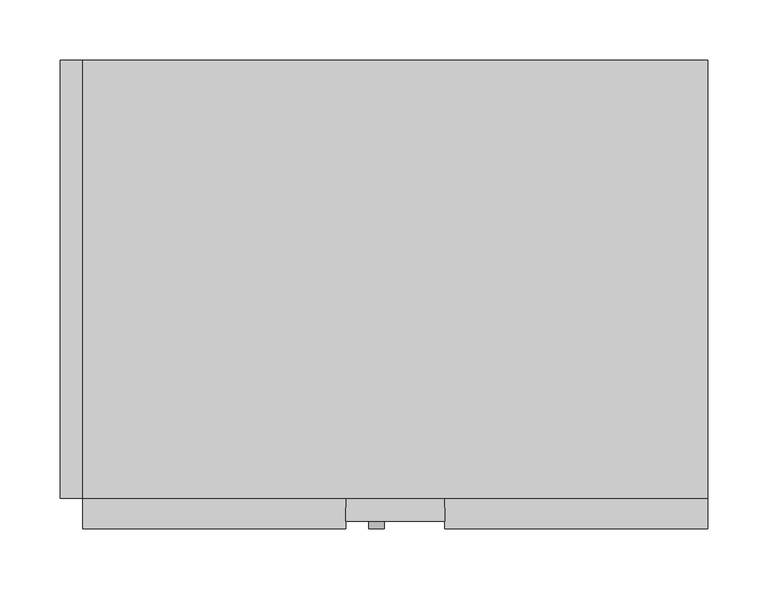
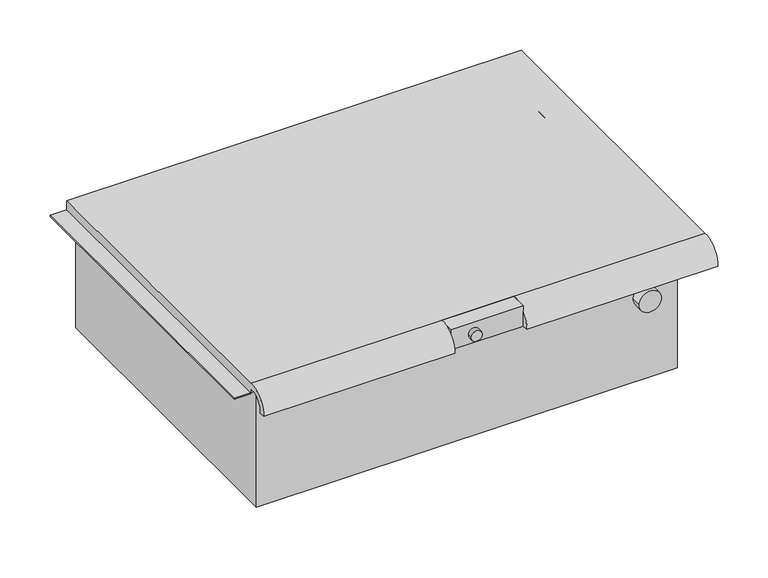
"""IFC4 building model written with IfcOpenShell, lengths in millimetres: furniture geometry."""

from ifc_helpers import new_model, si_unit, point, frame, frame_2d, origin, place, context, project, spatial, polyline, circle_curve, trimmed, segment, composite_curve, outline, extrude, faceted_brep, source, transform, mapped, element, save
from ifc_brep_helpers import plane_surface, cylinder_surface, revolved_surface, advanced_brep


def furniture_1926b776(model_context):
    return source(origin(), model_context, "Body", "SolidModel", [
        advanced_brep(
        [(289.147512, -169.8625, 371.483925), (289.147512, 195.2625, 371.483925), (289.147512, 195.2625, 382.596425), (289.147512, -169.8625, 382.596425), (289.147512, -195.297482, 357.9849518), (289.147512, -188.9125, 357.9849518), (289.147512, -169.8625, 376.246425), (-231.5525001, -169.8625, 371.483925), (-231.5525001, -169.8625, 376.246425), (-231.5525001, -188.9125, 357.9849518), (-231.5525001, -195.297482, 357.9849518), (-231.5525001, -169.8625, 382.596425), (-231.5525001, 195.2625, 382.596425), (-231.5525001, 195.2625, 371.483925), (70.072506, -169.8625, 376.246425), (70.072506, -169.8625, 382.596425), (-12.477494, -169.8625, 382.596425), (-12.477494, -169.8625, 376.246425), (70.072506, -195.297482, 357.9849518), (70.072506, -188.9125, 357.9849518), (-12.477494, -188.9125, 357.9849518), (-12.477494, -195.297482, 357.9849518)],
        [
            (0, 1),
            (1, 2),
            (2, 3),
            (3, 4, circle_curve(frame((289.147512, -172.4601678, 359.8322522), z_axis=(1.0, 0.0, 0.0), x_axis=(0.0, 1.0, 0.0)), 22.9119061)),
            (4, 5),
            (5, 6, circle_curve(frame((289.147512, -172.3404634, 359.7643622), z_axis=(-1.0, 0.0, 0.0), x_axis=(0.0, 1.0, 0.0)), 16.6672942)),
            (6, 0),
            (7, 8),
            (8, 9, circle_curve(frame((-231.5525001, -172.3404634, 359.7643622), z_axis=(1.0, 0.0, 0.0), x_axis=(0.0, 1.0, 0.0)), 16.6672942)),
            (9, 10),
            (10, 11, circle_curve(frame((-231.5525001, -172.4601678, 359.8322522), z_axis=(-1.0, 0.0, 0.0), x_axis=(0.0, 1.0, 0.0)), 22.9119061)),
            (11, 12),
            (12, 13),
            (13, 7),
            (6, 14),
            (14, 15),
            (15, 16),
            (16, 17),
            (17, 8),
            (7, 0),
            (13, 1),
            (12, 2),
            (11, 16),
            (15, 3),
            (4, 18),
            (18, 19),
            (19, 5),
            (9, 20),
            (20, 21),
            (21, 10),
            (19, 14, circle_curve(frame((70.072506, -172.3404634, 359.7643622), z_axis=(-1.0, 0.0, 0.0), x_axis=(0.0, 1.0, 0.0)), 16.6672942)),
            (17, 20, circle_curve(frame((-12.477494, -172.3404634, 359.7643622), z_axis=(1.0, 0.0, 0.0), x_axis=(0.0, 1.0, 0.0)), 16.6672942)),
            (15, 18, circle_curve(frame((70.072506, -172.4601678, 359.8322522), z_axis=(1.0, 0.0, 0.0), x_axis=(0.0, 1.0, 0.0)), 22.9119061)),
            (21, 16, circle_curve(frame((-12.477494, -172.4601678, 359.8322522), z_axis=(-1.0, 0.0, 0.0), x_axis=(0.0, 1.0, 0.0)), 22.9119061)),
        ],
        [
            plane_surface(frame((289.147512, -169.8625, 371.483925), z_axis=(1.0, 0.0, 0.0), x_axis=(0.0, 1.0, 0.0))),
            plane_surface(frame((-231.5525001, -169.8625, 371.483925), z_axis=(-1.0, 0.0, 0.0), x_axis=(0.0, -1.0, 0.0))),
            plane_surface(frame((289.147512, -169.8625, 376.246425), z_axis=(0.0, -1.0, 0.0), x_axis=(-1.0, 0.0, 0.0))),
            plane_surface(frame((289.147512, -169.8625, 371.483925), z_axis=(0.0, 0.0, -1.0), x_axis=(-1.0, 0.0, 0.0))),
            plane_surface(frame((289.147512, 195.2625, 371.483925), z_axis=(0.0, 1.0, 0.0), x_axis=(-1.0, 0.0, 0.0))),
            plane_surface(frame((289.147512, 195.2625, 382.596425), z_axis=(0.0, 0.0, 1.0), x_axis=(-1.0, 0.0, 0.0))),
            plane_surface(frame((289.147512, -195.297482, 357.9849518), z_axis=(0.0, 0.0, -1.0), x_axis=(-1.0, 0.0, 0.0))),
            revolved_surface(polyline([(70.072506, -155.67316920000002, 359.7643622), (289.147512, -155.67316920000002, 359.7643622)]), (-231.5525001, -172.3404634, 359.7643622), (-1.0, 0.0, 0.0)),
            revolved_surface(polyline([(-231.5525001, -155.67316920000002, 359.7643622), (-12.477494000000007, -155.67316920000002, 359.7643622)]), (-231.5525001, -172.3404634, 359.7643622), (-1.0, 0.0, 0.0)),
            cylinder_surface(frame((-231.5525001, -172.4601678, 359.8322522), z_axis=(1.0, 0.0, 0.0), x_axis=(0.0, 1.0, 0.0)), 22.9119061),
            plane_surface(frame((70.072506, -195.297482, 357.9849518), z_axis=(-1.0, 0.0, 0.0), x_axis=(0.0, 1.0, 0.0))),
            plane_surface(frame((-12.477494, -195.297482, 357.9849518), z_axis=(1.0, 0.0, 0.0), x_axis=(0.0, -1.0, 0.0))),
        ],
        [
            (0, [[1, 2, 3, 4, 5, 6, 7]]),
            (1, [[8, 9, 10, 11, 12, 13, 14]]),
            (2, [[-7, 15, 16, 17, 18, 19, -8, 20]]),
            (3, [[-1, -20, -14, 21]]),
            (4, [[-2, -21, -13, 22]]),
            (5, [[-3, -22, -12, 23, -17, 24]]),
            (6, [[-5, 25, 26, 27]]),
            (6, [[-10, 28, 29, 30]]),
            (7, [[-6, -27, 31, -15]]),
            (8, [[-9, -19, 32, -28]]),
            (9, [[-4, -24, 33, -25]]),
            (9, [[-11, -30, 34, -23]]),
            (10, [[-16, -31, -26, -33]]),
            (11, [[-18, -34, -29, -32]]),
        ],
    ),
        extrude(outline(polyline([(70.072506, -188.9125), (-12.477494, -188.9125), (-12.477494, -169.8625), (70.072506, -169.8625), (70.072506, -188.9125)])), frame((0.0, 0.0, 357.9849518), z_axis=(0.0, 0.0, 1.0), x_axis=(1.0, 0.0, 0.0)), (0.0, 0.0, 1.0), 24.6114732),
        extrude(outline(composite_curve([segment(trimmed(circle_curve(frame_2d((369.8964246, 12.922506)), 6.35), [point((369.8964246, 19.272506))], [point((369.8964246, 6.572506))], False, "CARTESIAN"), True, "CONTINUOUS"), segment(trimmed(circle_curve(frame_2d((369.8964246, 12.922506)), 6.35), [point((369.8964246, 6.572506))], [point((369.8964246, 19.272506))], False, "CARTESIAN"), True, "CONTINUOUS")], self_intersect=False)), frame((0.0, -195.2625, 0.0), z_axis=(0.0, 1.0, 0.0), x_axis=(0.0, 0.0, 1.0)), (0.0, 0.0, 1.0), 25.4),
        faceted_brep([(-225.2025001, -169.8625, 230.196425), (257.3974878, -169.8625, 230.196425), (257.3974878, -169.8625, 382.596425), (-225.2025001, -169.8625, 382.596425), (-225.2025001, 188.9125, 230.196425), (-225.2025001, 188.9125, 382.596425), (257.3974878, 188.9125, 382.596425), (257.3974878, 188.9125, 230.196425), (-218.8095642, 181.9275, 382.596425), (251.0474878, 181.9275, 382.596425), (251.0474878, -163.5125, 382.596425), (-218.8095642, -163.5125, 382.596425), (251.0474878, 181.9275, 233.371425), (-218.8095642, 181.9275, 233.371425), (-218.8095642, -163.5125, 233.371425), (251.0474878, -163.5125, 233.371425)], [[[0, 1, 2, 3]], [[4, 5, 6, 7]], [[1, 0, 4, 7]], [[2, 1, 7, 6]], [[3, 2, 6, 5], [8, 9, 10, 11]], [[0, 3, 5, 4]], [[12, 13, 14, 15]], [[13, 12, 9, 8]], [[14, 13, 8, 11]], [[15, 14, 11, 10]], [[12, 15, 10, 9]]]),
        faceted_brep([(-250.6025001, 195.2625, 369.8964246), (-250.6025001, 195.2625, 371.4839246), (-231.5525001, 195.2625, 371.4839246), (-231.5525001, 195.2625, 369.8964246), (-250.6025001, -169.8625, 369.8964246), (-231.5525001, -169.8625, 369.8964246), (-231.5525001, -169.8625, 371.4839246), (-250.6025001, -169.8625, 371.4839246)], [[[0, 1, 2, 3]], [[4, 5, 6, 7]], [[1, 0, 4, 7]], [[2, 1, 7, 6]], [[3, 2, 6, 5]], [[0, 3, 5, 4]]]),
        faceted_brep([(276.4474999, 195.2625, 369.8964246), (263.7474999, 195.2625, 369.8964246), (263.7474999, 195.2625, 371.4839246), (276.4474999, 195.2625, 371.4839246), (276.4474999, -169.8625, 369.8964246), (276.4474999, -169.8625, 371.4839246), (263.7474999, -169.8625, 371.4839246), (263.7474999, -169.8625, 369.8964246)], [[[0, 1, 2, 3]], [[4, 5, 6, 7]], [[1, 0, 4, 7]], [[2, 1, 7, 6]], [[3, 2, 6, 5]], [[0, 3, 5, 4]]]),
        extrude(outline(composite_curve([segment(trimmed(circle_curve(frame_2d((331.796425, 219.2974999)), 12.7), [point((331.796425, 206.5974999))], [point((331.796425, 231.9974999))], False, "CARTESIAN"), True, "CONTINUOUS"), segment(trimmed(circle_curve(frame_2d((331.796425, 219.2974999)), 12.7), [point((331.796425, 231.9974999))], [point((331.796425, 206.5974999))], False, "CARTESIAN"), True, "CONTINUOUS")], self_intersect=False)), frame((0.0, -182.5625, 0.0), z_axis=(0.0, 1.0, 0.0), x_axis=(0.0, 0.0, 1.0)), (0.0, 0.0, 1.0), 12.7),
    ])


if __name__ == "__main__":
    model = new_model("IFC4")
    model_context = context("Model", 3, world=origin())
    ifc_project = project(units=[si_unit("LENGTHUNIT", "METRE", prefix="MILLI")], contexts=[model_context])
    site = spatial("IfcSite", under=ifc_project)
    building = spatial("IfcBuilding", under=site)
    placement = place(None, origin())
    furniture_shape = furniture_1926b776(model_context)
    element("IfcFurniture", 1, ObjectType="HermanMiller_Carts_CT501_Drawer : 6\"H X 15\"D X 20\"W WITH STOP Key Diff", at=placement, inside=building, context=model_context, shape_type="MappedRepresentation", body=[
        mapped(furniture_shape, transform((0.0, 0.0, 0.0), x_axis=(1.0, 0.0, 0.0), y_axis=(0.0, 1.0, 0.0), z_axis=(0.0, 0.0, 1.0))),
    ])
    save(model, "model.ifc")
